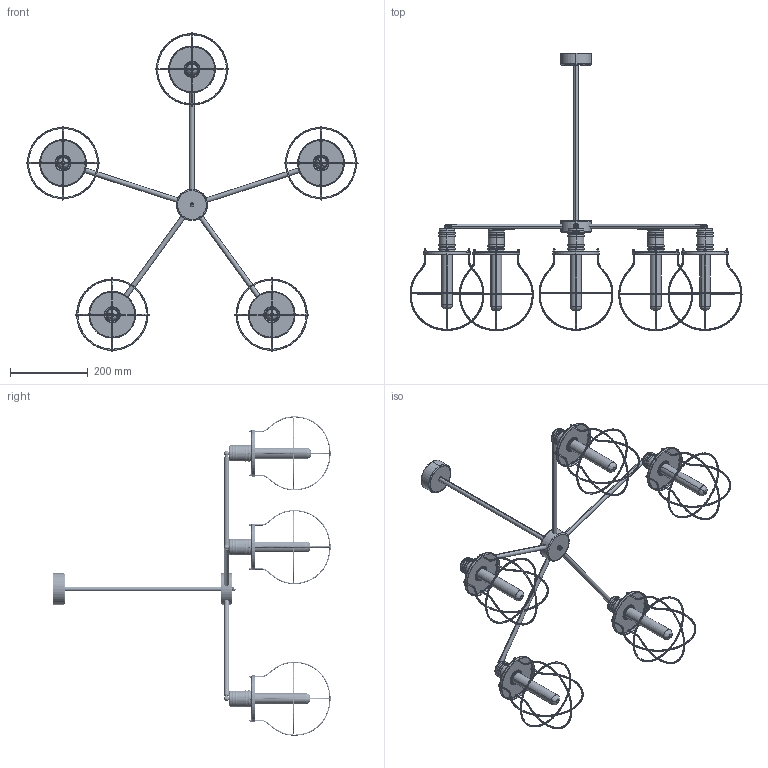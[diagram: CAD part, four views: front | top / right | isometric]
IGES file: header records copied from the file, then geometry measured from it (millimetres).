
Start section: SolidWorks IGES file using analytic representation for surfaces
Global section: file name: Z:\Modele 3D_WWW\_KOLEKCJE_WWW\MANUFACTURE\MANUFACTURE-9738\MANUFACTURE-9738.IGS; native system: SolidWorks 2020; preprocessor: SolidWorks 2020; author: gabriela.tworek; date: 210323.150859; units: millimetre
Bounding box: 853.21 x 712.3 x 820.76 mm (x, y, z)
Surface area: 502909.3 mm2 (no closed solid volume)
Topology: 0 solids, 0 shells, 1148 faces, 11284 edges, 11253 vertices
Faces by surface type: bspline 658, revolution 490
